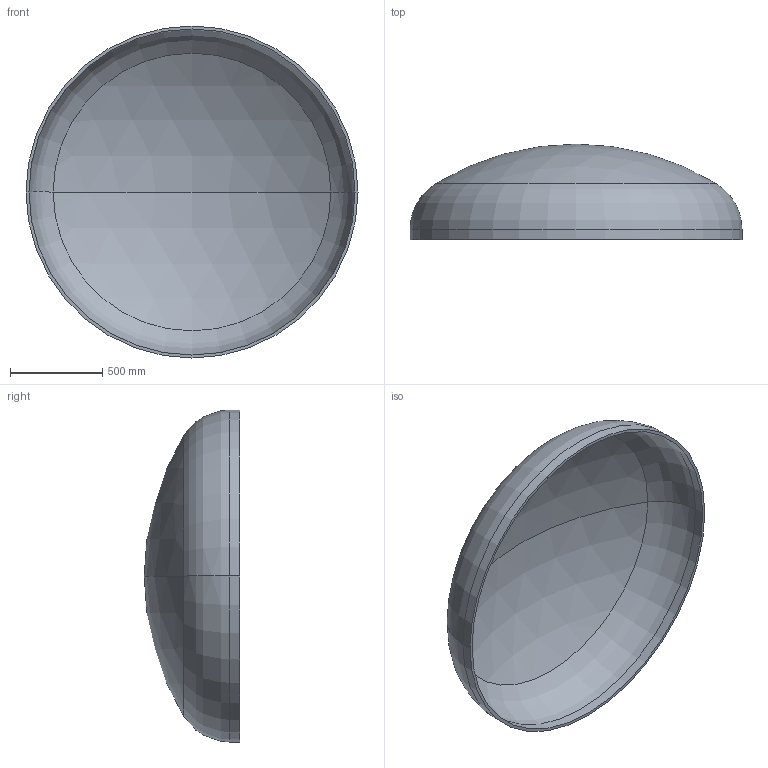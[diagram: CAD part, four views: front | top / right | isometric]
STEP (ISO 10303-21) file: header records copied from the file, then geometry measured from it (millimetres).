
FILE_DESCRIPTION (( 'STEP AP203' ), '1' );
FILE_NAME ('DIN 28013 Korbbogenform_-_Boden DIN 28013 - 1800 x 55 - I - s=16.step', '2016-07-01T12:18:44', ( '' ), ( '' ), 'SwSTEP 2.0', 'SolidWorks 2013', '' );
FILE_SCHEMA (( 'CONFIG_CONTROL_DESIGN' ));
Length unit declared in the file: millimetre
Products named in the file (1): DIN 28013 Korbbogenform_-_Boden DIN 28013 - 1800 x 55 - I - s=16
Bounding box: 1800 x 517.85 x 1800 mm (x, y, z)
Volume: 60576348.4 mm3; surface area: 7662250.5 mm2
Topology: 1 solids, 1 shells, 13 faces, 24 edges, 14 vertices
Faces by surface type: torus 4, cylinder 4, sphere 4, plane 1
Entity records: 407 total; most frequent: DIRECTION 72, CARTESIAN_POINT 52, ORIENTED_EDGE 48, AXIS2_PLACEMENT_3D 34, EDGE_CURVE 24, CIRCLE 20, VERTEX_POINT 14, EDGE_LOOP 14
